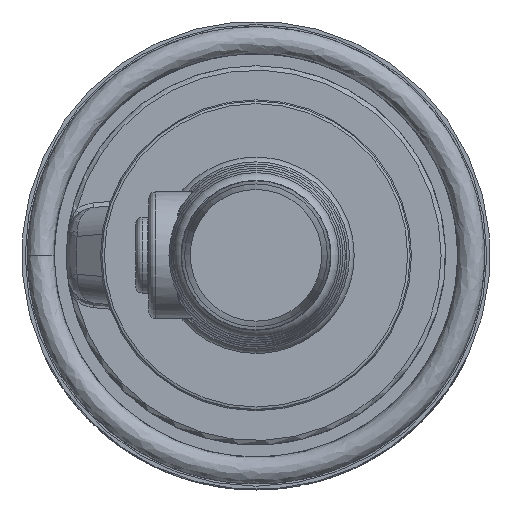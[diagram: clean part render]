
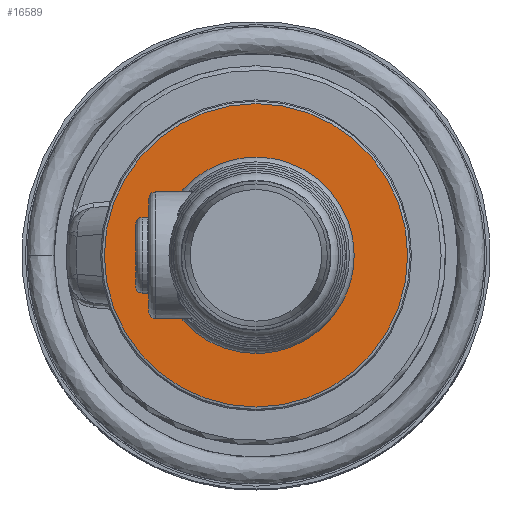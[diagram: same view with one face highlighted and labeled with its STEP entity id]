
A CAD part, left-side view. The second image highlights one B-rep face of the part: STEP entity #16589.
In plain terms, the highlighted planar face has unit normal (-1, 0, 0).
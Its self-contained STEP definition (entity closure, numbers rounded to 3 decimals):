
#222=FACE_BOUND('',#5403,.T.);
#910=B_SPLINE_CURVE_WITH_KNOTS('',3,(#36440,#36441,#36442,#36443,#36444,
#36445,#36446,#36447,#36448,#36449,#36450,#36451,#36452,#36453,#36454,#36455,
#36456,#36457,#36458,#36459,#36460,#36461,#36462,#36463,#36464,#36465),
 .UNSPECIFIED.,.F.,.F.,(4,2,2,2,2,2,2,2,2,2,2,2,4),(-9.637,-9.63,
-9.622,-9.603,-9.551,-9.384,
-8.87,-7.81,-6.371,-4.874,
-3.299,-1.673,0.),.UNSPECIFIED.);
#2291=LINE('',#36438,#3255);
#3255=VECTOR('',#20671,10.);
#3628=PLANE('',#17627);
#4379=FACE_OUTER_BOUND('',#5402,.T.);
#5402=EDGE_LOOP('',(#14473));
#5403=EDGE_LOOP('',(#14474,#14475,#14476));
#5928=CIRCLE('',#17628,68.);
#5929=CIRCLE('',#17629,40.75);
#7720=VERTEX_POINT('',#36434);
#7721=VERTEX_POINT('',#36436);
#7722=VERTEX_POINT('',#36437);
#7723=VERTEX_POINT('',#36439);
#9998=EDGE_CURVE('',#7720,#7720,#5928,.T.);
#9999=EDGE_CURVE('',#7721,#7722,#2291,.T.);
#10000=EDGE_CURVE('',#7723,#7721,#910,.T.);
#10001=EDGE_CURVE('',#7723,#7722,#5929,.T.);
#14473=ORIENTED_EDGE('',*,*,#9998,.F.);
#14474=ORIENTED_EDGE('',*,*,#9999,.F.);
#14475=ORIENTED_EDGE('',*,*,#10000,.F.);
#14476=ORIENTED_EDGE('',*,*,#10001,.T.);
#16589=ADVANCED_FACE('',(#4379,#222),#3628,.T.);
#17627=AXIS2_PLACEMENT_3D('',#36433,#20667,#20668);
#17628=AXIS2_PLACEMENT_3D('',#36435,#20669,#20670);
#17629=AXIS2_PLACEMENT_3D('',#36466,#20672,#20673);
#20667=DIRECTION('center_axis',(-1.,0.,0.));
#20668=DIRECTION('ref_axis',(0.,-1.,0.));
#20669=DIRECTION('center_axis',(1.,0.,0.));
#20670=DIRECTION('ref_axis',(0.,0.,
-1.));
#20671=DIRECTION('',(0.,0.951,-0.309));
#20672=DIRECTION('center_axis',(1.,0.,0.));
#20673=DIRECTION('ref_axis',(0.,0.,
-1.));
#36433=CARTESIAN_POINT('Origin',(-128.,0.,-55.5));
#36434=CARTESIAN_POINT('',(-128.,-68.,0.));
#36435=CARTESIAN_POINT('Origin',(-128.,0.,0.));
#36436=CARTESIAN_POINT('',(-128.,-40.342,13.108));
#36437=CARTESIAN_POINT('',(-128.,-38.756,12.592));
#36438=CARTESIAN_POINT('',(-128.,-11.266,3.661));
#36439=CARTESIAN_POINT('',(-128.,6.525,-40.224));
#36440=CARTESIAN_POINT('Ctrl Pts',(-128.,6.525,-40.224));
#36441=CARTESIAN_POINT('Ctrl Pts',(-128.,6.526,-40.229));
#36442=CARTESIAN_POINT('Ctrl Pts',(-128.,6.526,-40.234));
#36443=CARTESIAN_POINT('Ctrl Pts',(-128.,6.524,-40.245));
#36444=CARTESIAN_POINT('Ctrl Pts',(-128.,6.523,-40.25));
#36445=CARTESIAN_POINT('Ctrl Pts',(-128.,6.515,-40.268));
#36446=CARTESIAN_POINT('Ctrl Pts',(-128.,6.507,-40.279));
#36447=CARTESIAN_POINT('Ctrl Pts',(-128.,6.472,-40.317));
#36448=CARTESIAN_POINT('Ctrl Pts',(-128.,6.433,-40.344));
#36449=CARTESIAN_POINT('Ctrl Pts',(-128.,6.276,-40.437));
#36450=CARTESIAN_POINT('Ctrl Pts',(-128.,6.099,-40.505));
#36451=CARTESIAN_POINT('Ctrl Pts',(-128.,5.564,-40.695));
#36452=CARTESIAN_POINT('Ctrl Pts',(-128.,4.963,-40.856));
#36453=CARTESIAN_POINT('Ctrl Pts',(-128.,2.674,-41.317));
#36454=CARTESIAN_POINT('Ctrl Pts',(-128.,0.244,-41.635));
#36455=CARTESIAN_POINT('Ctrl Pts',(-128.,-6.94,-41.468));
#36456=CARTESIAN_POINT('Ctrl Pts',(-128.,-11.399,-40.675));
#36457=CARTESIAN_POINT('Ctrl Pts',(-128.,-20.537,
-37.191));
#36458=CARTESIAN_POINT('Ctrl Pts',(-128.,-24.833,
-34.57));
#36459=CARTESIAN_POINT('Ctrl Pts',(-128.,-32.474,
-27.759));
#36460=CARTESIAN_POINT('Ctrl Pts',(-128.,-35.695,
-23.552));
#36461=CARTESIAN_POINT('Ctrl Pts',(-128.,-40.483,
-14.015));
#36462=CARTESIAN_POINT('Ctrl Pts',(-128.,-41.949,
-8.738));
#36463=CARTESIAN_POINT('Ctrl Pts',(-128.,-42.796,
2.228));
#36464=CARTESIAN_POINT('Ctrl Pts',(-128.,-42.109,7.82));
#36465=CARTESIAN_POINT('Ctrl Pts',(-128.,-40.342,13.108));
#36466=CARTESIAN_POINT('Origin',(-128.,0.,
0.));
